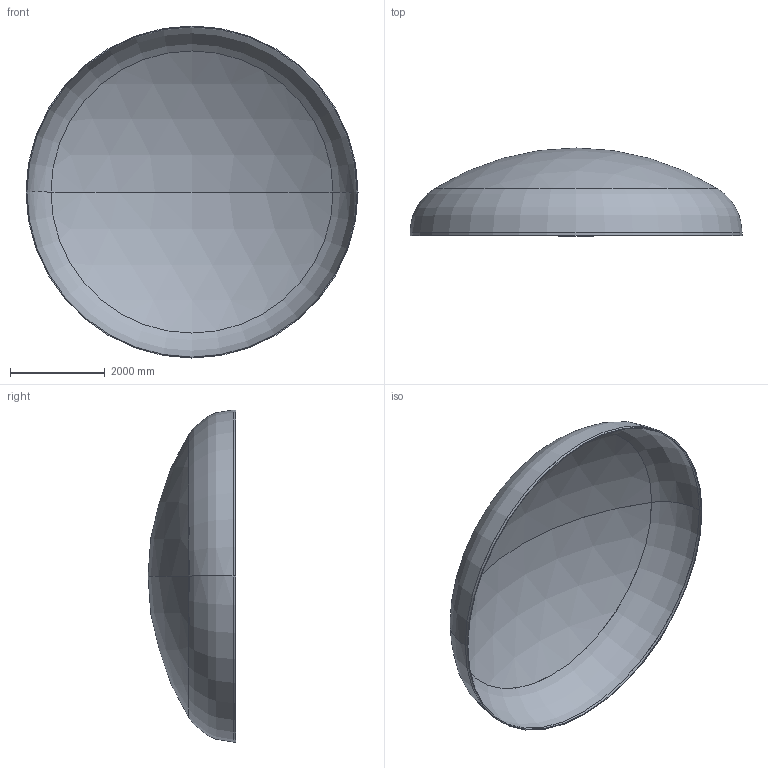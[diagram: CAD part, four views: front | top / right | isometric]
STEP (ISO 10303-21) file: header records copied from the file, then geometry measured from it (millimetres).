
FILE_DESCRIPTION (( 'STEP AP203' ), '1' );
FILE_NAME ('DIN 28013 Korbbogenform_-_Boden DIN 28013 - 7000 x 60 - I - s=19.step', '2016-07-04T10:45:41', ( '' ), ( '' ), 'SwSTEP 2.0', 'SolidWorks 2013', '' );
FILE_SCHEMA (( 'CONFIG_CONTROL_DESIGN' ));
Length unit declared in the file: millimetre
Products named in the file (1): DIN 28013 Korbbogenform_-_Boden DIN 28013 - 7000 x 60 - I - s=19
Bounding box: 7000 x 1849.43 x 7000 mm (x, y, z)
Volume: 1034523893.6 mm3; surface area: 109314661.3 mm2
Topology: 1 solids, 1 shells, 13 faces, 24 edges, 14 vertices
Faces by surface type: torus 4, cylinder 4, sphere 4, plane 1
Entity records: 407 total; most frequent: DIRECTION 72, CARTESIAN_POINT 52, ORIENTED_EDGE 48, AXIS2_PLACEMENT_3D 34, EDGE_CURVE 24, CIRCLE 20, VERTEX_POINT 14, EDGE_LOOP 14
